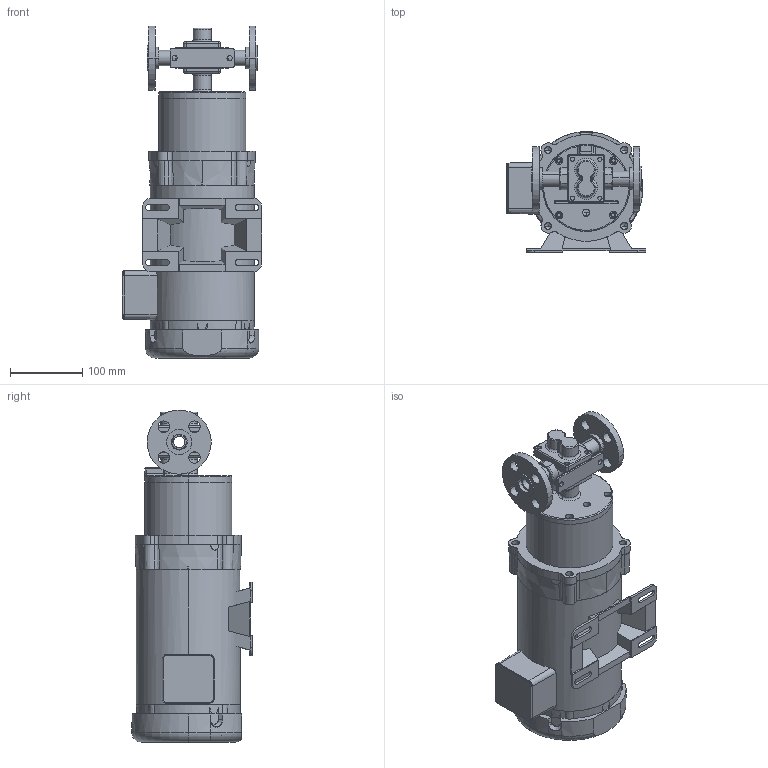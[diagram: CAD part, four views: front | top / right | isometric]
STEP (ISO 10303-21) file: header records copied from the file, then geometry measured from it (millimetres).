
FILE_DESCRIPTION (( 'STEP AP214' ), '1' );
FILE_NAME ('GMC2 FLGD 56C MOTOR.STEP', '2025-08-28T14:35:19', ( '' ), ( '' ), 'SwSTEP 2.0', 'SolidWorks 2024', '' );
FILE_SCHEMA (( 'AUTOMOTIVE_DESIGN' ));
Length unit declared in the file: inch
Products named in the file (1): GMC2 FLGD 56C MOTOR
Bounding box: 193.29 x 167.51 x 460.41 mm (x, y, z)
Volume: 5382561 mm3; surface area: 445539.7 mm2
Topology: 9 solids, 12 shells, 1665 faces, 4330 edges, 2812 vertices
Faces by surface type: cylinder 770, plane 692, cone 111, torus 56, bspline 22, sphere 14
Entity records: 55105 total; most frequent: CARTESIAN_POINT 12870, DIRECTION 9198, ORIENTED_EDGE 8616, EDGE_CURVE 4308, AXIS2_PLACEMENT_3D 3476, VERTEX_POINT 2812, LINE 2246, VECTOR 2246
